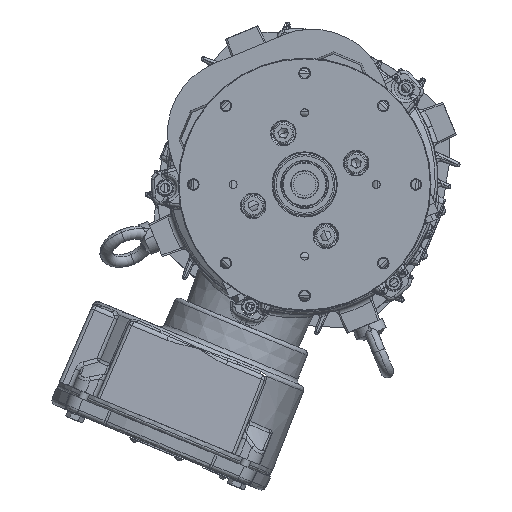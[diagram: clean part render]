
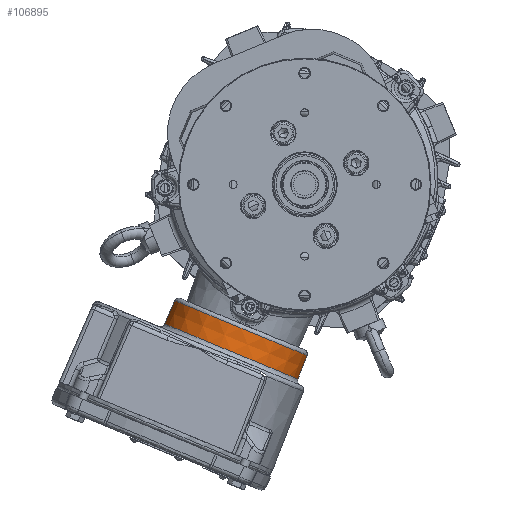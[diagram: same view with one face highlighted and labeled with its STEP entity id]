
A CAD part, front view. The second image highlights one B-rep face of the part: STEP entity #106895.
In plain terms, the highlighted conical face has half-angle 1 degrees and reference radius 45.324 mm.
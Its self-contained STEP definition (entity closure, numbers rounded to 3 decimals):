
#2562 = ORIENTED_EDGE ( 'NONE', *, *, #17576, .T. ) ;
#2622 = VERTEX_POINT ( 'NONE', #51119 ) ;
#8253 = EDGE_CURVE ( 'NONE', #106254, #11330, #77482, .T. ) ;
#11330 = VERTEX_POINT ( 'NONE', #32299 ) ;
#11417 = VECTOR ( 'NONE', #51251, 1000. ) ;
#15526 = CARTESIAN_POINT ( 'NONE',  ( -46.095, 409.2, -105.001 ) ) ;
#17576 = EDGE_CURVE ( 'NONE', #11330, #2622, #132125, .T. ) ;
#21943 = AXIS2_PLACEMENT_3D ( 'NONE', #96605, #145891, #35171 ) ;
#27404 = ORIENTED_EDGE ( 'NONE', *, *, #76596, .T. ) ;
#29316 = CIRCLE ( 'NONE', #150588, 45.046 ) ;
#31564 = CARTESIAN_POINT ( 'NONE',  ( -40.011, 409.2, -90.312 ) ) ;
#31746 = CARTESIAN_POINT ( 'NONE',  ( -81.628, 409.2, -73.073 ) ) ;
#32299 = CARTESIAN_POINT ( 'NONE',  ( -87.969, 409.2, -87.656 ) ) ;
#35171 = DIRECTION ( 'NONE',  ( 0.924, 0., -0.383 ) ) ;
#39780 = DIRECTION ( 'NONE',  ( -0.924, 0., 0.383 ) ) ;
#49801 = ORIENTED_EDGE ( 'NONE', *, *, #157628, .F. ) ;
#51119 = CARTESIAN_POINT ( 'NONE',  ( -4.221, 409.2, -122.346 ) ) ;
#51160 = CARTESIAN_POINT ( 'NONE',  ( 1.607, 409.2, -107.55 ) ) ;
#51251 = DIRECTION ( 'NONE',  ( -0.367, 0., -0.93 ) ) ;
#54795 = DIRECTION ( 'NONE',  ( -0.399, 0., -0.917 ) ) ;
#54970 = DIRECTION ( 'NONE',  ( -0.383, 0., -0.924 ) ) ;
#59991 = VECTOR ( 'NONE', #54795, 1000. ) ;
#76341 = LINE ( 'NONE', #148272, #11417 ) ;
#76596 = EDGE_CURVE ( 'NONE', #126470, #106254, #29316, .T. ) ;
#77482 = LINE ( 'NONE', #100977, #59991 ) ;
#80858 = DIRECTION ( 'NONE',  ( -0.924, 0., 0.383 ) ) ;
#93414 = AXIS2_PLACEMENT_3D ( 'NONE', #15526, #150384, #39780 ) ;
#96605 = CARTESIAN_POINT ( 'NONE',  ( -46.095, 409.2, -105.001 ) ) ;
#99348 = CONICAL_SURFACE ( 'NONE', #21943, 45.324, 0.017 ) ;
#100977 = CARTESIAN_POINT ( 'NONE',  ( -87.969, 409.2, -87.656 ) ) ;
#106254 = VERTEX_POINT ( 'NONE', #31746 ) ;
#106895 = ADVANCED_FACE ( 'NONE', ( #107926 ), #99348, .T. ) ;
#107926 = FACE_OUTER_BOUND ( 'NONE', #133636, .T. ) ;
#112940 = ORIENTED_EDGE ( 'NONE', *, *, #8253, .T. ) ;
#126470 = VERTEX_POINT ( 'NONE', #51160 ) ;
#132125 = CIRCLE ( 'NONE', #93414, 45.324 ) ;
#133636 = EDGE_LOOP ( 'NONE', ( #27404, #112940, #2562, #49801 ) ) ;
#145891 = DIRECTION ( 'NONE',  ( -0.383, 0., -0.924 ) ) ;
#148272 = CARTESIAN_POINT ( 'NONE',  ( -4.221, 409.2, -122.346 ) ) ;
#150384 = DIRECTION ( 'NONE',  ( 0.383, 0., 0.924 ) ) ;
#150588 = AXIS2_PLACEMENT_3D ( 'NONE', #31564, #54970, #80858 ) ;
#157628 = EDGE_CURVE ( 'NONE', #126470, #2622, #76341, .T. ) ;
